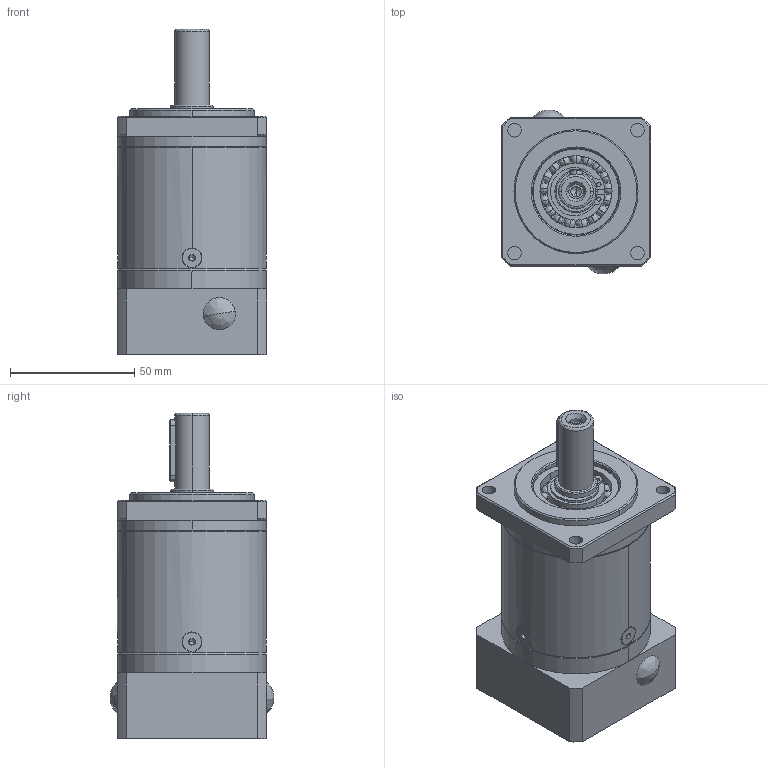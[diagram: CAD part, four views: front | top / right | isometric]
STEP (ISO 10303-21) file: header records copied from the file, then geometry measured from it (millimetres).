
FILE_DESCRIPTION (( 'STEP AP214' ), '1' );
FILE_NAME ('PF60L2-50-14-M5.STEP', '2020-09-02T09:07:04', ( '微软用户' ), ( '微软中国' ), 'SwSTEP 2.0', 'SolidWorks 2014', '' );
FILE_SCHEMA (( 'AUTOMOTIVE_DESIGN' ));
Length unit declared in the file: millimetre
Products named in the file (82): 黑裔9; 两级内齿圈; 怀堤傷裔; O形密封圈2X35; Circlips for hole--Type B GB_GB_CONNECTING_PIECE_RINGS_CHB 35; Deep groove ball bearings GB_Rolling bearings 6003 GB 276-94; 怀堤粣5A; Circlips for shaft--Type A large GB_GB_CONNECTING_PIECE_RING_RRA 17; 俴陎粣7X13.5; 俴陎謫菜え7.2X13.5; 幗渀粣創7X10; 俴陎謫5A; 路燭菜え18X49.5; 俴陎殤8A; 俴陎謫菜え7.2X17; 俴陎謫8A; 笢潔怮栠謫5A; 薊粣ん14; 珨撰怮栠謫8A; Deep groove ball bearings GB_Rolling bearings 61904 GB 276-94; Circlips for shaft--Type A large GB_GB_CONNECTING_PIECE_RING_RRA 20; Hexagon socket countersunk head screws GB_GB_FASTENER_SCREWS_HSCHS M4X10-N; Plain parallel keys_GB_CONNECTING_PIECE_KEYS_CSK 5X25; Circlips for hole--Type B GB_GB_CONNECTING_PIECE_RINGS_CHB 37; Hexagon socket head cap screws GB_GB_FASTENER_SCREWS_HSHCS M5X16-N; 输入端盖; PF60L2-50-14-M5
Assembly tree (55 placements, depth 2):
  黑裔9
  PF60L2-50-14-M5
    两级内齿圈
    怀堤傷裔
    O形密封圈2X35
    Circlips for hole--Type B GB_GB_CONNECTING_PIECE_RINGS_CHB 35
    Deep groove ball bearings GB_Rolling bearings 6003 GB 276-94  x2
    怀堤粣5A
    Circlips for shaft--Type A large GB_GB_CONNECTING_PIECE_RING_RRA 17
    俴陎粣7X13.5  x7
    俴陎謫菜え7.2X13.5  x4
    幗渀粣創7X10  x7
    俴陎謫5A  x4
    路燭菜え18X49.5  x2
    俴陎殤8A
    俴陎謫菜え7.2X17  x3
    俴陎謫8A  x3
    笢潔怮栠謫5A
    薊粣ん14
    珨撰怮栠謫8A
    Deep groove ball bearings GB_Rolling bearings 61904 GB 276-94
    Circlips for shaft--Type A large GB_GB_CONNECTING_PIECE_RING_RRA 20
    Hexagon socket countersunk head screws GB_GB_FASTENER_SCREWS_HSCHS M4X10-N  x4
    Plain parallel keys_GB_CONNECTING_PIECE_KEYS_CSK 5X25
    Circlips for hole--Type B GB_GB_CONNECTING_PIECE_RINGS_CHB 37
    Hexagon socket head cap screws GB_GB_FASTENER_SCREWS_HSHCS M5X16-N  x2
    黑裔9  x2
    输入端盖
  两级内齿圈
  怀堤傷裔
  O形密封圈2X35
Bounding box: 60 x 66 x 131 mm (x, y, z)
Volume: 243180.4 mm3; surface area: 123997.2 mm2
Topology: 55 solids, 55 shells, 1185 faces, 3526 edges, 2152 vertices
Faces by surface type: cylinder 429, bspline 334, plane 292, cone 130
Entity records: 36238 total; most frequent: CARTESIAN_POINT 14433, ORIENTED_EDGE 4542, DIRECTION 3856, EDGE_CURVE 2271, AXIS2_PLACEMENT_3D 1639, VERTEX_POINT 1488, CIRCLE 1004, EDGE_LOOP 937
